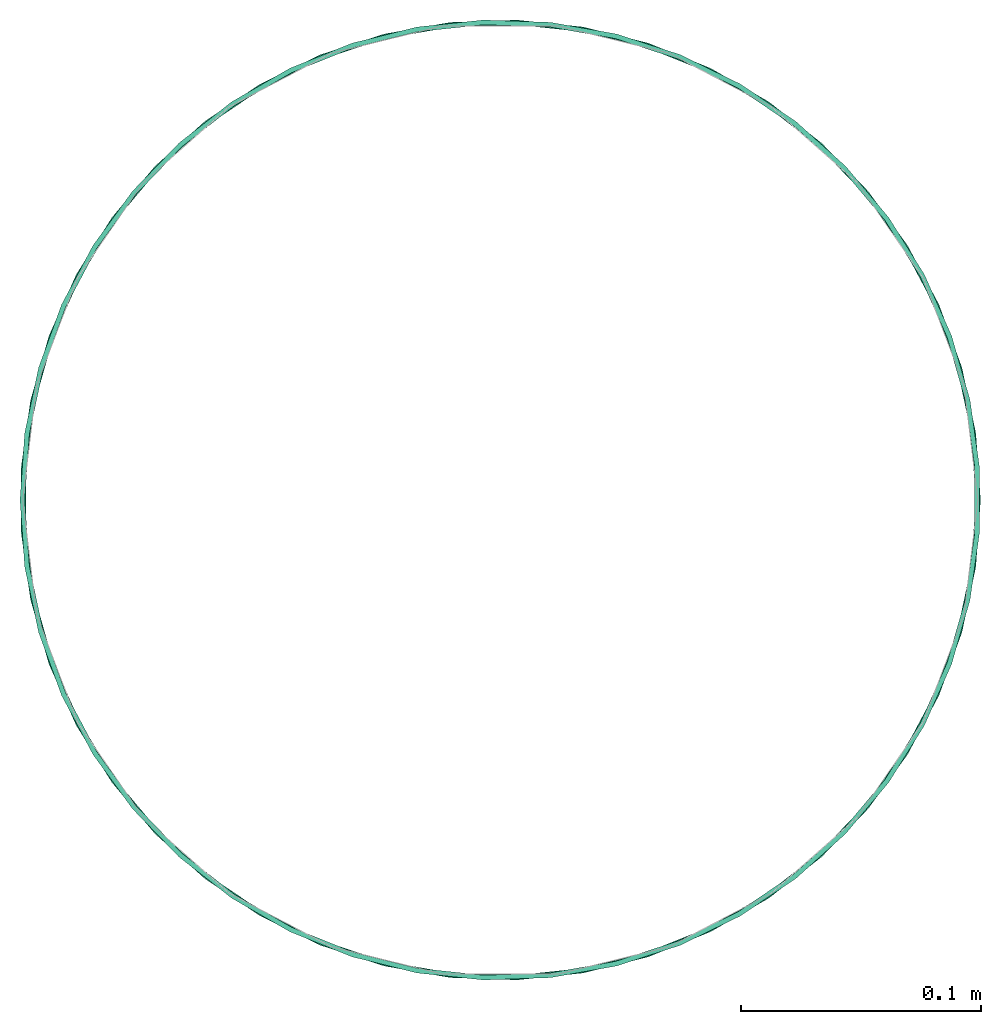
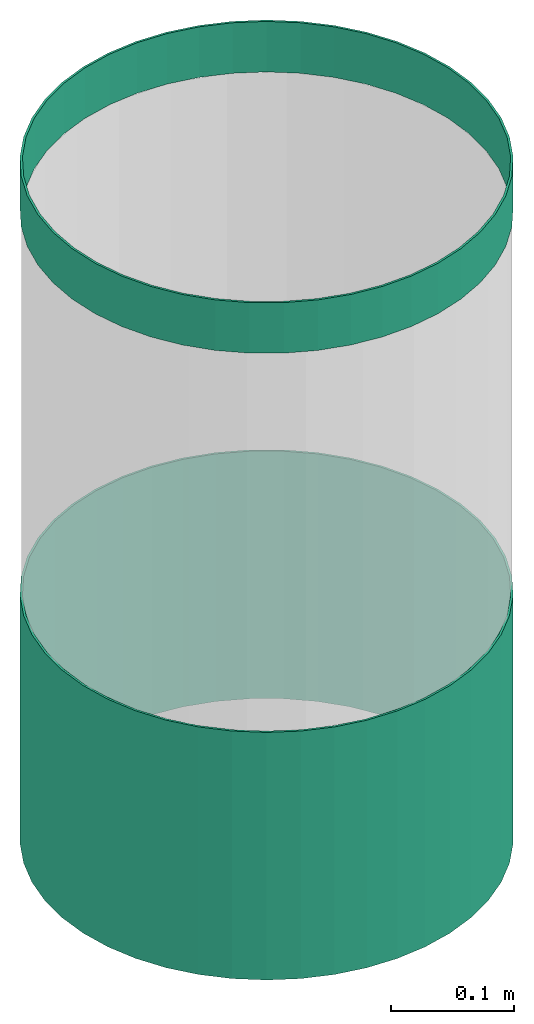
# One storey, part 1 of 2: 2 flow segments.
"""IFC2X3 building model written with IfcOpenShell, lengths in millimetres."""

from ifc_helpers import new_model, entity, si_unit, converted_unit, derived_unit, direction, frame, origin_with_axes, origin_2d_with_axis, place, context, subcontext, project, spatial, hollow_circle, extrude, source, transform, mapped, type_object, element, save


model = new_model("IFC2X3")

# Units and contexts
model_context = context("Model", 3, precision=0.01, world=frame((0.0, 4.29681676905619e-09, 0.0)), true_north=direction((4.01073788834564e-13, 1.0)))
plan_context = context("Plan", 3, precision=0.01, world=frame((0.0, 4.29681676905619e-09, 0.0)), true_north=direction((4.01073788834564e-13, 1.0)))
body_context = subcontext(model_context, "Body", "Model", "MODEL_VIEW")
ifc_project = project(units=[converted_unit("PLANEANGLEUNIT", "DEGREE", entity("IfcPositiveLengthMeasure", 0.0174532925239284), si_unit("PLANEANGLEUNIT", "RADIAN"), dimensions=[0, 0, 0, 0, 0, 0, 0]), si_unit("AREAUNIT", "SQUARE_METRE"), si_unit("LENGTHUNIT", "METRE", prefix="MILLI"), si_unit("MASSUNIT", "GRAM", prefix="KILO"), si_unit("POWERUNIT", "WATT"), si_unit("PRESSUREUNIT", "PASCAL"), si_unit("FORCEUNIT", "NEWTON", prefix="KILO"), si_unit("ELECTRICVOLTAGEUNIT", "VOLT"), si_unit("ELECTRICCURRENTUNIT", "AMPERE"), si_unit("THERMODYNAMICTEMPERATUREUNIT", "DEGREE_CELSIUS"), si_unit("TIMEUNIT", "SECOND"), si_unit("VOLUMEUNIT", "CUBIC_METRE"), derived_unit("LINEARVELOCITYUNIT", [(si_unit("LENGTHUNIT", "METRE"), 1), (si_unit("TIMEUNIT", "SECOND"), -1)]), derived_unit("VOLUMETRICFLOWRATEUNIT", [(si_unit("VOLUMEUNIT", "CUBIC_METRE"), 1), (si_unit("TIMEUNIT", "SECOND"), -1)]), derived_unit("THERMALTRANSMITTANCEUNIT", [(si_unit("POWERUNIT", "WATT"), 1), (si_unit("THERMODYNAMICTEMPERATUREUNIT", "KELVIN"), -1), (si_unit("AREAUNIT", "SQUARE_METRE"), -1)]), derived_unit("SOUNDPRESSUREUNIT", [(si_unit("PRESSUREUNIT", "PASCAL"), 1)])], contexts=[model_context, plan_context])

# Site, building, storey
site_placement = place(None, frame((0.0, -4.29681676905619e-09, 0.0), z_axis=(0.0, 0.0, 1.0), x_axis=(1.0, 0.0, 0.0)))
site = spatial("IfcSite", under=ifc_project, at=site_placement, Name="ENGM", CompositionType="ELEMENT")
building_placement = place(site_placement, frame((0.0, 4.29681676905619e-09, 0.0), z_axis=(0.0, 0.0, 1.0), x_axis=(1.0, 0.0, 0.0)))
building = spatial("IfcBuilding", under=site, at=building_placement, Name="TI", CompositionType="ELEMENT")
storey_placement = place(building_placement, frame((0.0, 0.0, 204000.0), z_axis=(0.0, 0.0, 1.0), x_axis=(1.0, 0.0, 0.0)))
storey = spatial("IfcBuildingStorey", under=building, at=storey_placement, Name="Nivå D", CompositionType="ELEMENT", Elevation=204000.0)

# Flow segments
duct_segment_type = type_object("IfcDuctSegmentType", Name="2 - Spiro kanaler, Forsinket stål", PredefinedType="RIGIDSEGMENT")
shared_shape_1 = source(origin_with_axes(), body_context, "Body", "SweptSolid", [
    extrude(hollow_circle(Radius=200.0, WallThickness=2.0, at=origin_2d_with_axis()), frame((0.0, 0.0, 0.0), z_axis=(1.0, 0.0, 0.0), x_axis=(0.0, 1.0, 0.0)), (0.0, 0.0, 1.0), 50.0),
])
flow_segment_1_placement = place(storey_placement, frame((610709.54457, 693197.98838, 9841.38003999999), z_axis=(0.0, -1.0, 0.0), x_axis=(0.0, 0.0, 1.0)))
element("IfcFlowSegment", 1, at=flow_segment_1_placement, inside=storey, type_object=duct_segment_type, Name="2 - Spiro kanaler, Forsinket stål", context=body_context, shape_type="MappedRepresentation", body=[
    mapped(shared_shape_1, transform((0.0, 0.0, 0.0), scale=1.0)),
])
shared_shape_2 = source(origin_with_axes(), body_context, "Body", "SweptSolid", [
    extrude(hollow_circle(Radius=200.0, WallThickness=2.0, at=origin_2d_with_axis()), frame((0.0, 0.0, 0.0), z_axis=(1.0, 0.0, 0.0), x_axis=(0.0, 1.0, 0.0)), (0.0, 0.0, 1.0), 245.0),
])
flow_segment_2_placement = place(storey_placement, frame((610709.54457, 693197.98838, 9466.38003999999), z_axis=(0.0, -1.0, 0.0), x_axis=(0.0, 0.0, -1.0)))
element("IfcFlowSegment", 2, at=flow_segment_2_placement, inside=storey, type_object=duct_segment_type, Name="2 - Spiro kanaler, Forsinket stål", context=body_context, shape_type="MappedRepresentation", body=[
    mapped(shared_shape_2, transform((0.0, 0.0, 0.0), scale=1.0)),
])

save(model, "model.ifc")
